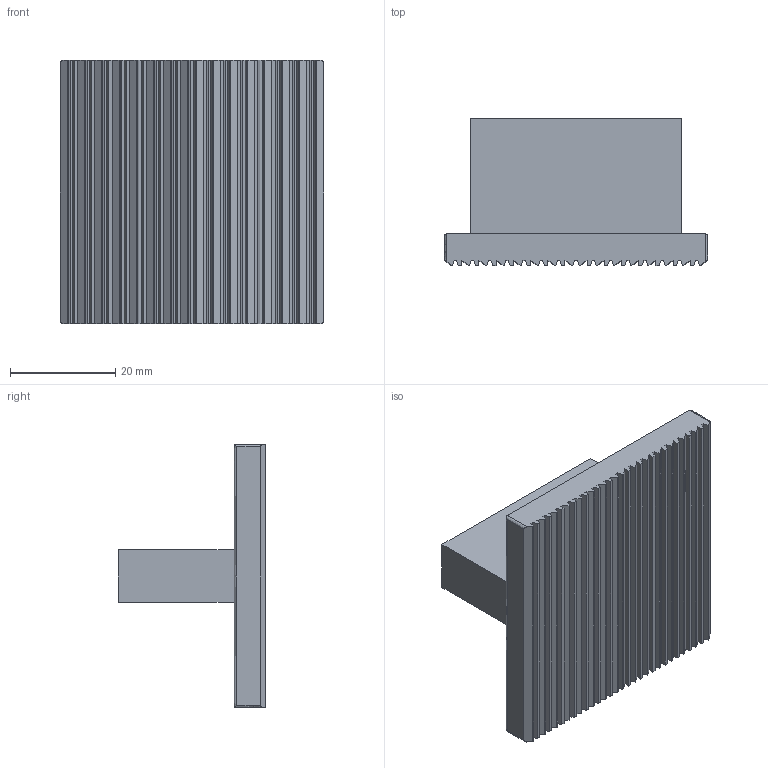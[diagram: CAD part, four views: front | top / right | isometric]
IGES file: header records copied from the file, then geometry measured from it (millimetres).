
Start section: Data from Parasolid IGES Translator 15.0.47, Copyright(c) 2006 Siemens P LM Software. All Rights Reserved.
Global section: file name: 9113399.igs; native system:  By UGS Corp.; preprocessor: XPlus GENERIC/IGES 3.0; author: Noname; organization: Noname; date: 20140122.160645; units: millimetre
Bounding box: 50.01 x 28 x 50.02 mm (x, y, z)
Surface area: 10448.9 mm2 (no closed solid volume)
Topology: 0 solids, 0 shells, 125 faces, 712 edges, 710 vertices
Faces by surface type: extrusion 117, revolution 8
